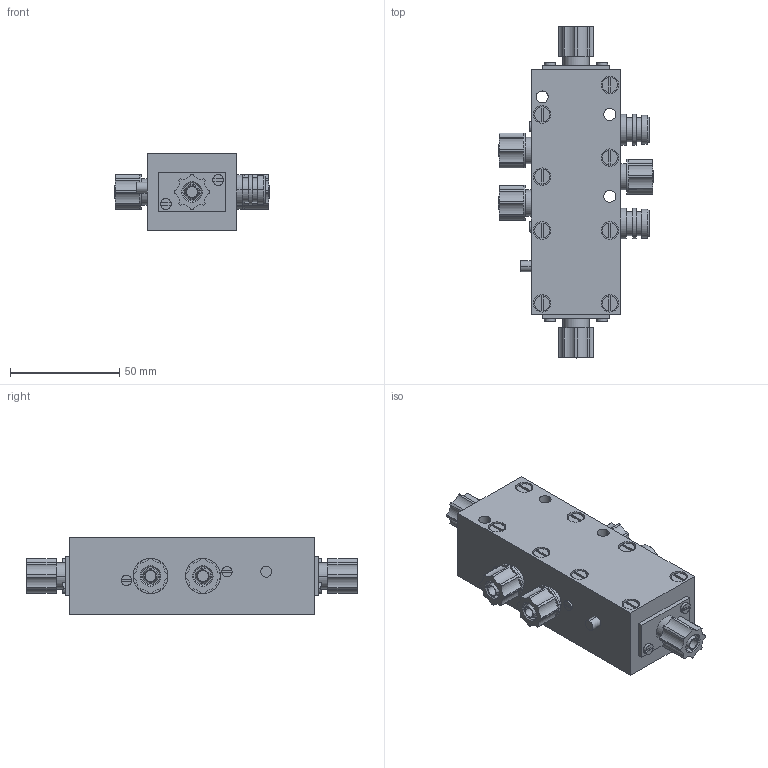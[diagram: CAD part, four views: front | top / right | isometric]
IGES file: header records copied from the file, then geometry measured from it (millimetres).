
Start section:  PTC IGES file: 5717410000\5717410000.iges
Global section: file name: 5717410000\5717410000.iges; native system: Creo Parametric by PTC Inc.; preprocessor: 2020044; author: THD3HC; organization: Unknown; date: 20230921.124726; units: millimetre
Bounding box: 71 x 152 x 35 mm (x, y, z)
Surface area: 31876.7 mm2 (no closed solid volume)
Topology: 0 solids, 0 shells, 382 faces, 1788 edges, 1788 vertices
Faces by surface type: revolution 192, bspline 190
